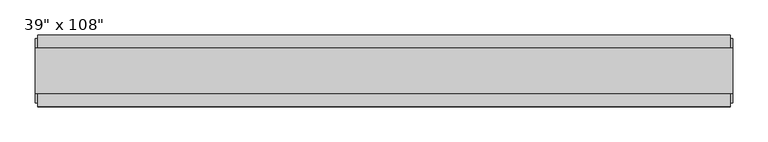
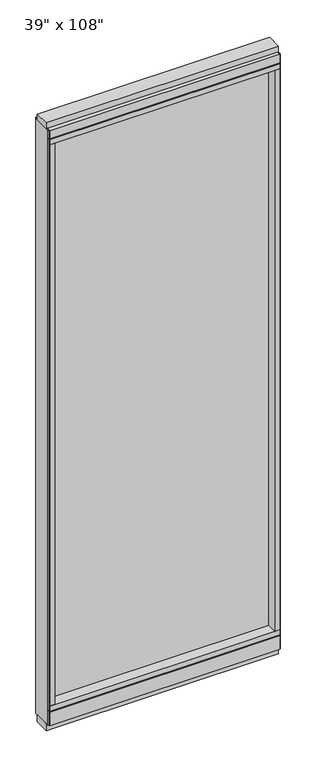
"""IFC4 building model written with IfcOpenShell, lengths in millimetres: furniture geometry."""

from ifc_helpers import new_model, si_unit, frame, origin, origin_with_axes, place, context, project, spatial, polyline, outline, extrude, source, transform, mapped, element, save


def furniture_ec360300(model_context):
    return source(origin(), model_context, "Body", "SweptSolid", [
        extrude(outline(polyline([(409.4983521, -9.5977216), (-529.5713979, -9.5977216), (-529.5713979, 0.5622784), (409.4983521, 0.5622784), (409.4983521, -9.5977216)])), frame((0.0, 0.0, 120.523), z_axis=(0.0, 0.0, 1.0), x_axis=(1.0, 0.0, 0.0)), (0.0, 0.0, 1.0), 2533.777),
        extrude(outline(polyline([(-55.3177216, 93.345), (-50.3647216, 93.345), (-50.3647216, 98.298), (41.3292784, 98.298), (41.3292784, 93.345), (46.2822784, 93.345), (46.2822784, 31.75), (-55.3177216, 31.75), (-55.3177216, 93.345)])), frame((-551.7963979, 0.0, 0.0), z_axis=(1.0, 0.0, 0.0), x_axis=(0.0, 1.0, 0.0)), (0.0, 0.0, 1.0), 983.51975),
        extrude(outline(polyline([(-551.7963979, -55.3177216), (-551.7963979, 46.2822784), (431.7233521, 46.2822784), (431.7233521, -55.3177216), (-551.7963979, -55.3177216)])), frame((0.0, 0.0, 98.298), z_axis=(0.0, 0.0, 1.0), x_axis=(1.0, 0.0, 0.0)), (0.0, 0.0, 1.0), 22.225),
        extrude(outline(polyline([(435.6603521, 27.9942784), (435.6603521, -37.0297216), (-555.7333979, -37.0297216), (-555.7333979, 27.9942784), (435.6603521, 27.9942784)])), origin_with_axes(), (0.0, 0.0, 1.0), 31.75),
        extrude(outline(polyline([(-555.7333979, -37.0297216), (-555.7333979, 27.9942784), (435.6603521, 27.9942784), (435.6603521, -37.0297216), (-555.7333979, -37.0297216)])), frame((0.0, 0.0, 2717.8), z_axis=(0.0, 0.0, 1.0), x_axis=(1.0, 0.0, 0.0)), (0.0, 0.0, 1.0), 25.4),
        extrude(outline(polyline([(-55.3177216, 2681.478), (-55.3177216, 2717.8), (46.2822784, 2717.8), (46.2822784, 2681.478), (41.3292784, 2681.478), (41.3292784, 2676.525), (-50.3647216, 2676.525), (-50.3647216, 2681.478), (-55.3177216, 2681.478)])), frame((-551.7963979, 0.0, 0.0), z_axis=(1.0, 0.0, 0.0), x_axis=(0.0, 1.0, 0.0)), (0.0, 0.0, 1.0), 983.51975),
        extrude(outline(polyline([(431.7233521, 46.2822784), (431.7233521, -55.3177216), (-551.7963979, -55.3177216), (-551.7963979, 46.2822784), (431.7233521, 46.2822784)])), frame((0.0, 0.0, 2654.3), z_axis=(0.0, 0.0, 1.0), x_axis=(1.0, 0.0, 0.0)), (0.0, 0.0, 1.0), 22.225),
        extrude(outline(polyline([(409.4983521, -55.3177216), (409.4983521, 46.2822784), (431.7233521, 46.2822784), (431.7233521, -55.3177216), (409.4983521, -55.3177216)])), frame((0.0, 0.0, 120.523), z_axis=(0.0, 0.0, 1.0), x_axis=(1.0, 0.0, 0.0)), (0.0, 0.0, 1.0), 2533.777),
        extrude(outline(polyline([(-529.5713979, -55.3177216), (-551.7963979, -55.3177216), (-551.7963979, 46.2822784), (-529.5713979, 46.2822784), (-529.5713979, -55.3177216)])), frame((0.0, 0.0, 120.523), z_axis=(0.0, 0.0, 1.0), x_axis=(1.0, 0.0, 0.0)), (0.0, 0.0, 1.0), 2533.777),
        extrude(outline(polyline([(435.6603521, -50.3647216), (431.7233521, -50.3647216), (431.7233521, 41.3292784), (435.6603521, 41.3292784), (435.6603521, -50.3647216)])), frame((0.0, 0.0, 31.75), z_axis=(0.0, 0.0, 1.0), x_axis=(1.0, 0.0, 0.0)), (0.0, 0.0, 1.0), 2686.05),
        extrude(outline(polyline([(-555.7333979, -50.3647216), (-555.7333979, 41.3292784), (-551.7963979, 41.3292784), (-551.7963979, -50.3647216), (-555.7333979, -50.3647216)])), frame((0.0, 0.0, 31.75), z_axis=(0.0, 0.0, 1.0), x_axis=(1.0, 0.0, 0.0)), (0.0, 0.0, 1.0), 2686.05),
    ])


if __name__ == "__main__":
    model = new_model("IFC4")
    model_context = context("Model", 3, world=origin())
    ifc_project = project(units=[si_unit("LENGTHUNIT", "METRE", prefix="MILLI")], contexts=[model_context])
    site = spatial("IfcSite", under=ifc_project)
    building = spatial("IfcBuilding", under=site)
    placement = place(None, origin())
    furniture_shape = furniture_ec360300(model_context)
    element("IfcFurniture", 1, ObjectType="Haworth_Enclose_Wall_Glass : 39\" x 108\"", at=placement, inside=building, context=model_context, shape_type="MappedRepresentation", body=[
        mapped(furniture_shape, transform((0.0, 0.0, 0.0), x_axis=(1.0, 0.0, 0.0), y_axis=(0.0, 1.0, 0.0), z_axis=(0.0, 0.0, 1.0))),
    ])
    save(model, "model.ifc")
